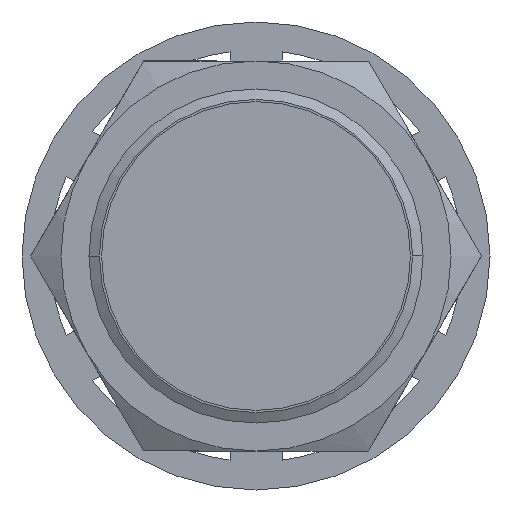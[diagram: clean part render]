
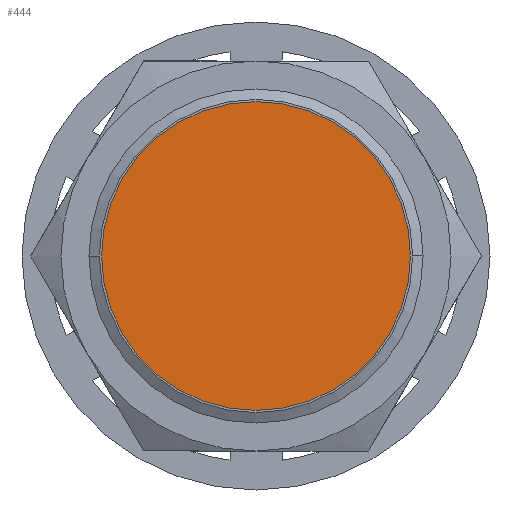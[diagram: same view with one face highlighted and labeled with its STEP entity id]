
A CAD part, left-side view. The second image highlights one B-rep face of the part: STEP entity #444.
In plain terms, the highlighted planar face has unit normal (-1, 0, 0).
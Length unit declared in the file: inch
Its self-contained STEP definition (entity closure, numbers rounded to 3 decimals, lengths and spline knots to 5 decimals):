
#166 = EDGE_LOOP ( 'NONE', ( #14824, #14238 ) ) ;
#444 = ADVANCED_FACE ( 'NONE', ( #13105 ), #13106, .T. ) ;
#2049 = EDGE_CURVE ( 'NONE', #10185, #10429, #14001, .T. ) ;
#3346 = CARTESIAN_POINT ( 'NONE',  ( 0.84792, 4.51998, -0.49599 ) ) ;
#3561 = CARTESIAN_POINT ( 'NONE',  ( 0.84792, 4.51998, 0.59701 ) ) ;
#3808 = CIRCLE ( 'NONE', #3809, 0.5465 ) ;
#3809 = AXIS2_PLACEMENT_3D ( 'NONE', #3810, #3811, #3812 ) ;
#3810 = CARTESIAN_POINT ( 'NONE',  ( 0.84792, 4.51998, 0.05051 ) ) ;
#3811 = DIRECTION ( 'NONE',  ( -1., 0., 0. ) ) ;
#3812 = DIRECTION ( 'NONE',  ( 0., 0., -1. ) ) ;
#10185 = VERTEX_POINT ( 'NONE', #3346 ) ;
#10429 = VERTEX_POINT ( 'NONE', #3561 ) ;
#10685 = EDGE_CURVE ( 'NONE', #10429, #10185, #3808, .T. ) ;
#13105 = FACE_OUTER_BOUND ( 'NONE', #166, .T. ) ;
#13106 = PLANE ( 'NONE',  #13107 ) ;
#13107 = AXIS2_PLACEMENT_3D ( 'NONE', #13108, #13109, #13110 ) ;
#13108 = CARTESIAN_POINT ( 'NONE',  ( 0.84792, 4.51998, 0.05051 ) ) ;
#13109 = DIRECTION ( 'NONE',  ( -1., 0., 0. ) ) ;
#13110 = DIRECTION ( 'NONE',  ( 0., 0., 1. ) ) ;
#14001 = CIRCLE ( 'NONE', #14002, 0.5465 ) ;
#14002 = AXIS2_PLACEMENT_3D ( 'NONE', #14003, #14004, #14005 ) ;
#14003 = CARTESIAN_POINT ( 'NONE',  ( 0.84792, 4.51998, 0.05051 ) ) ;
#14004 = DIRECTION ( 'NONE',  ( -1., 0., 0. ) ) ;
#14005 = DIRECTION ( 'NONE',  ( 0., 0., -1. ) ) ;
#14238 = ORIENTED_EDGE ( 'NONE', *, *, #10685, .T. ) ;
#14824 = ORIENTED_EDGE ( 'NONE', *, *, #2049, .T. ) ;
